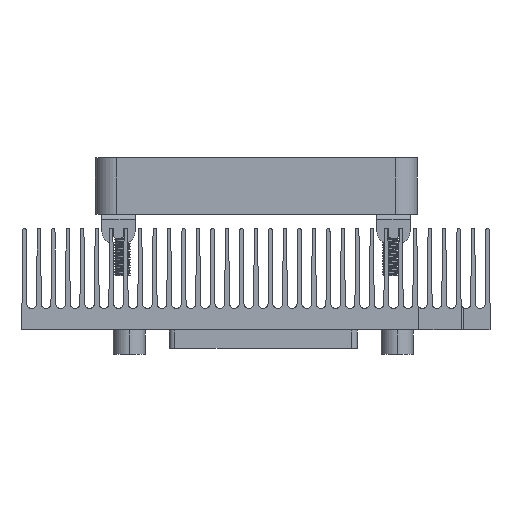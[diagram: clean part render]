
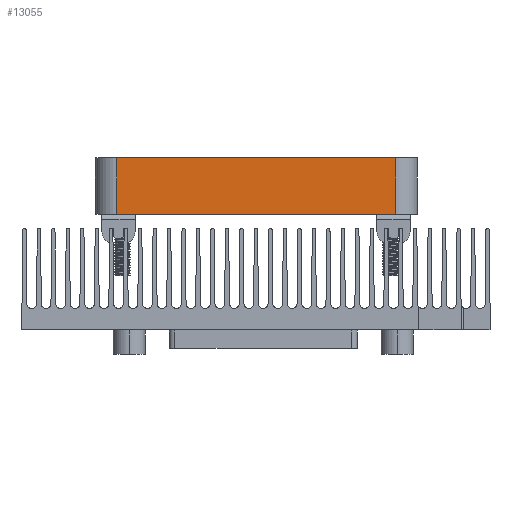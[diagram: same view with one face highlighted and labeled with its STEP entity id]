
A CAD part, left-side view. The second image highlights one B-rep face of the part: STEP entity #13055.
In plain terms, the highlighted planar face has unit normal (-1, 0, 0).
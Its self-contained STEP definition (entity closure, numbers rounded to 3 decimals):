
#11472=DIRECTION('',(0.,0.,-1.));
#11473=VECTOR('',#11472,52.);
#11474=CARTESIAN_POINT('',(-30.,10.5,26.));
#11475=LINE('',#11474,#11473);
#11696=DIRECTION('',(0.,-1.,0.));
#11697=VECTOR('',#11696,10.5);
#11698=CARTESIAN_POINT('',(-30.,10.5,-26.));
#11699=LINE('',#11698,#11697);
#11700=DIRECTION('',(0.,-1.,0.));
#11701=VECTOR('',#11700,10.5);
#11702=CARTESIAN_POINT('',(-30.,10.5,26.));
#11703=LINE('',#11702,#11701);
#11799=DIRECTION('',(0.,0.,1.));
#11800=VECTOR('',#11799,52.);
#11801=CARTESIAN_POINT('',(-30.,0.,-26.));
#11802=LINE('',#11801,#11800);
#12612=CARTESIAN_POINT('',(-30.,0.,-26.));
#12614=VERTEX_POINT('',#12612);
#12618=CARTESIAN_POINT('',(-30.,10.5,-26.));
#12619=VERTEX_POINT('',#12618);
#12637=CARTESIAN_POINT('',(-30.,0.,26.));
#12639=VERTEX_POINT('',#12637);
#12640=CARTESIAN_POINT('',(-30.,10.5,26.));
#12641=VERTEX_POINT('',#12640);
#13041=CARTESIAN_POINT('',(-30.,0.,-30.));
#13042=DIRECTION('',(-1.,0.,0.));
#13043=DIRECTION('',(0.,0.,1.));
#13044=AXIS2_PLACEMENT_3D('',#13041,#13042,#13043);
#13045=PLANE('',#13044);
#13047=ORIENTED_EDGE('',*,*,#13046,.F.);
#13049=ORIENTED_EDGE('',*,*,#13048,.F.);
#13050=ORIENTED_EDGE('',*,*,#12917,.F.);
#13052=ORIENTED_EDGE('',*,*,#13051,.T.);
#13053=EDGE_LOOP('',(#13047,#13049,#13050,#13052));
#13054=FACE_OUTER_BOUND('',#13053,.F.);
#13055=ADVANCED_FACE('',(#13054),#13045,.T.);
#12917=EDGE_CURVE('',#12641,#12619,#11475,.T.);
#13046=EDGE_CURVE('',#12614,#12639,#11802,.T.);
#13048=EDGE_CURVE('',#12619,#12614,#11699,.T.);
#13051=EDGE_CURVE('',#12641,#12639,#11703,.T.);
